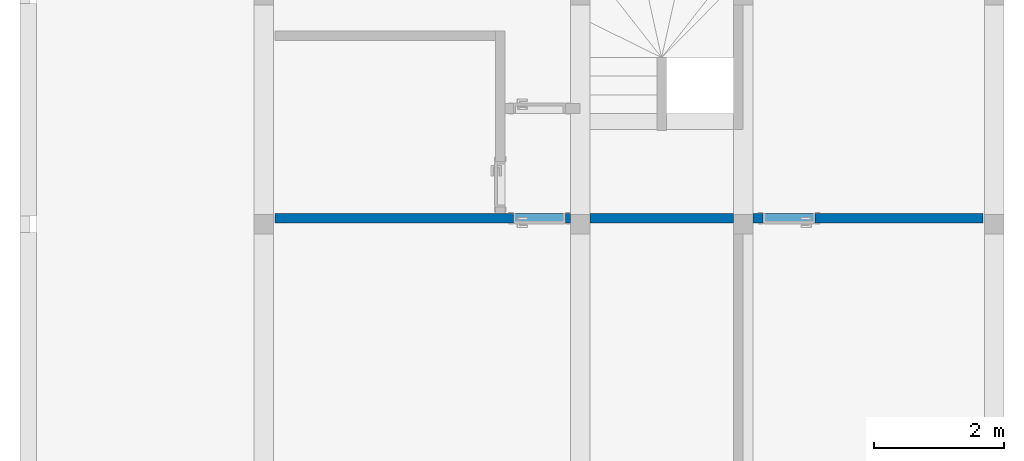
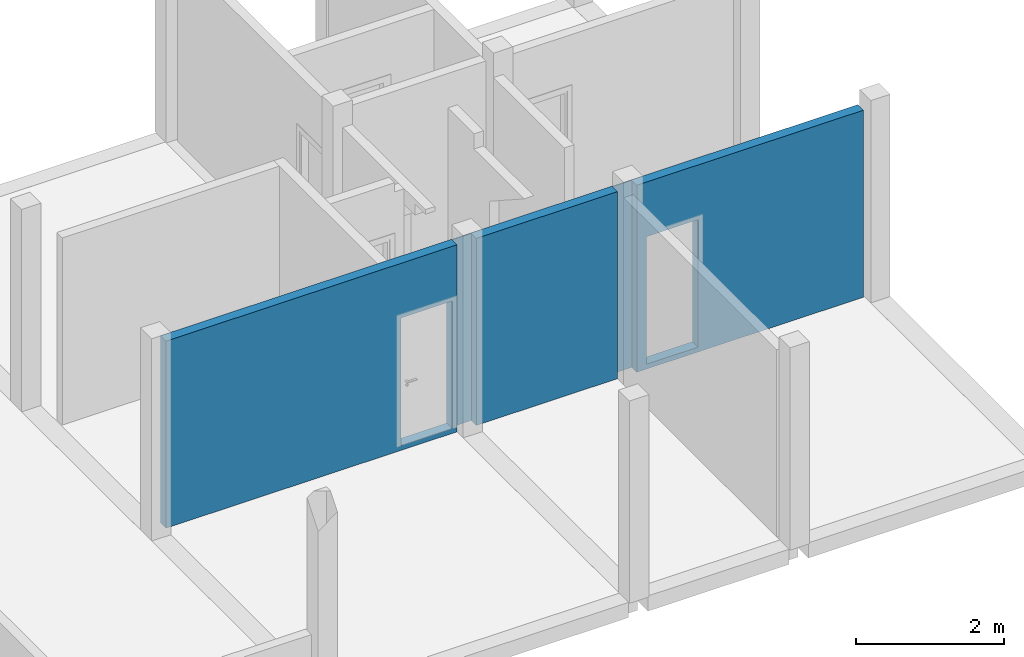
# One storey, part 6 of 11: 1 wall, 2 openings.
"""IFC2X3 building model written with IfcOpenShell, lengths in metres."""

from ifc_helpers import new_model, entity, si_unit, converted_unit, derived_unit, direction, frame, frame_2d, origin, place, context, subcontext, project, spatial, polyline, rectangle, extrude, clip, bounded_halfspace, material, layer, layer_set, layer_usage, type_object, element, save


model = new_model("IFC2X3")

# Units and contexts
model_context = context("Model", 3, precision=1e-05, world=origin(), true_north=direction((6.12303176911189e-17, 1.0)))
context_of_model = context(None, 3, precision=1e-05, world=origin(), true_north=direction((6.12303176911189e-17, 1.0)))
body_context = subcontext(model_context, "Body", "Model", "MODEL_VIEW")
ifc_project = project(units=[si_unit("LENGTHUNIT", "METRE"), si_unit("AREAUNIT", "SQUARE_METRE"), si_unit("VOLUMEUNIT", "CUBIC_METRE"), converted_unit("PLANEANGLEUNIT", "DEGREE", entity("IfcRatioMeasure", 0.0174532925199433), si_unit("PLANEANGLEUNIT", "RADIAN"), dimensions=[0, 0, 0, 0, 0, 0, 0]), si_unit("MASSUNIT", "GRAM", prefix="KILO"), si_unit("TIMEUNIT", "SECOND"), si_unit("FREQUENCYUNIT", "HERTZ"), si_unit("THERMODYNAMICTEMPERATUREUNIT", "DEGREE_CELSIUS"), derived_unit("THERMALTRANSMITTANCEUNIT", [(si_unit("MASSUNIT", "GRAM", prefix="KILO"), 1), (si_unit("THERMODYNAMICTEMPERATUREUNIT", "KELVIN"), -1), (si_unit("TIMEUNIT", "SECOND"), -3)]), derived_unit("VOLUMETRICFLOWRATEUNIT", [(si_unit("LENGTHUNIT", "METRE"), 3), (si_unit("TIMEUNIT", "SECOND"), -1)]), si_unit("ELECTRICCURRENTUNIT", "AMPERE"), si_unit("ELECTRICVOLTAGEUNIT", "VOLT"), si_unit("POWERUNIT", "WATT"), si_unit("FORCEUNIT", "NEWTON", prefix="KILO"), si_unit("ILLUMINANCEUNIT", "LUX"), si_unit("LUMINOUSFLUXUNIT", "LUMEN"), si_unit("LUMINOUSINTENSITYUNIT", "CANDELA"), si_unit("PRESSUREUNIT", "PASCAL")], contexts=[model_context, context_of_model])

# Site, building, storey
site_placement = place(None, origin())
site = spatial("IfcSite", under=ifc_project, at=site_placement, Name="Default", CompositionType="ELEMENT")
building_placement = place(site_placement, origin())
building = spatial("IfcBuilding", under=site, at=building_placement, CompositionType="ELEMENT")
storey_placement = place(building_placement, frame((0.0, 0.0, 3.45)))
storey = spatial("IfcBuildingStorey", under=building, at=storey_placement, Name="02.ES.PLANTA PRIMERA", CompositionType="ELEMENT", Elevation=3.45)

# Wall, openings
ifc_material = material(Name="Muro por defecto")
ifc_layer = layer(ifc_material, 0.15)
ifc_layer_set = layer_set([ifc_layer], Name="Muro básico:Por defecto - 15 cm")
ifc_layer_usage = layer_usage(ifc_layer_set, "AXIS2", "NEGATIVE", 0.075)
wall_type = type_object("IfcWallType", Name="Muro básico:Por defecto - 15 cm", PredefinedType="STANDARD", material=ifc_layer_set)
wall_placement = place(storey_placement, frame((15.245, 5.18006108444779, 0.0), z_axis=(0.0, 0.0, 1.0), x_axis=(-1.0, 0.0, 0.0)))
wall = element("IfcWallStandardCase", 1, at=wall_placement, inside=storey, type_object=wall_type, material=ifc_layer_usage, Name="Muro básico:Por defecto - 15 cm", ObjectType="Muro básico:Por defecto - 15 cm", context=body_context, shape_type="Clipping", body=[
    clip(clip(extrude(rectangle(XDim=10.8600000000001, YDim=0.150000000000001, at=frame_2d((5.43000000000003, -8.32667268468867e-17), x_axis=(-1.0, 0.0))), origin(), (0.0, 0.0, 1.0), 3.08), bounded_halfspace(frame((6.03000000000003, -0.0599999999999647, 0.0), z_axis=(0.0, -1.0, 0.0), x_axis=(0.0, 0.0, -1.0)), True, frame((6.03000000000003, -0.0599999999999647, 0.0), z_axis=(0.0, -1.0, 0.0), x_axis=(0.0, 0.0, -1.0)), polyline([(0.0, 0.0), (0.0, 0.3), (-3.08, 0.3), (-3.08, 0.0), (0.0, 0.0)]))), bounded_halfspace(frame((3.53000000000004, -0.0599999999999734, 0.0), z_axis=(0.0, -1.0, 0.0), x_axis=(0.0, 0.0, -1.0)), True, frame((3.53000000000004, -0.0599999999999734, 0.0), z_axis=(0.0, -1.0, 0.0), x_axis=(0.0, 0.0, -1.0)), polyline([(0.0, 0.0), (0.0, 0.300000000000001), (-3.08, 0.300000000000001), (-3.08, 0.0), (0.0, 0.0)]))),
])
opening_1_placement = place(wall_placement, frame((2.575, -0.0750000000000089, 0.0799999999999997)))
element("IfcOpeningElement", 2, at=opening_1_placement, cuts=wall, Name="Puerta de 1 hoja:80 x 210 cm:1", ObjectType="Opening", context=body_context, shape_type="SweptSolid", body=[
    extrude(rectangle(XDim=2.09999999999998, YDim=0.8, at=frame_2d((1.04999999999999, 0.4), x_axis=(1.0, 0.0))), frame((0.0, 0.0, 0.0), z_axis=(0.0, 1.0, 0.0), x_axis=(0.0, 0.0, 1.0)), (0.0, 0.0, 1.0), 0.15),
])
opening_2_placement = place(wall_placement, frame((6.40499999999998, -0.0750000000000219, 0.0799999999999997)))
element("IfcOpeningElement", 3, at=opening_2_placement, cuts=wall, Name="Puerta de 1 hoja:80 x 210 cm:1", ObjectType="Opening", context=body_context, shape_type="SweptSolid", body=[
    extrude(rectangle(XDim=2.09999999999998, YDim=0.8, at=frame_2d((1.04999999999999, 0.4), x_axis=(1.0, 0.0))), frame((0.0, 0.0, 0.0), z_axis=(0.0, 1.0, 0.0), x_axis=(0.0, 0.0, 1.0)), (0.0, 0.0, 1.0), 0.15),
])

save(model, "model.ifc")
